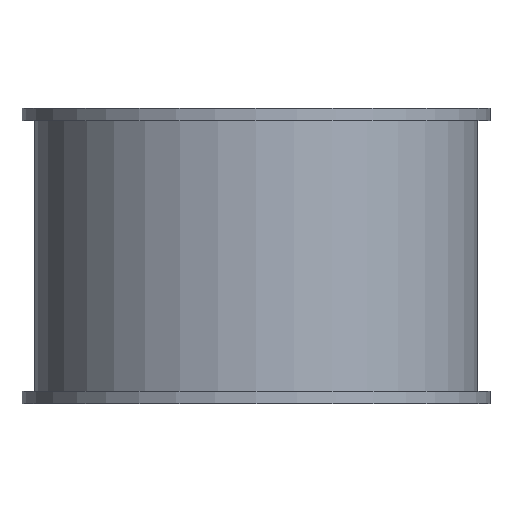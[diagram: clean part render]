
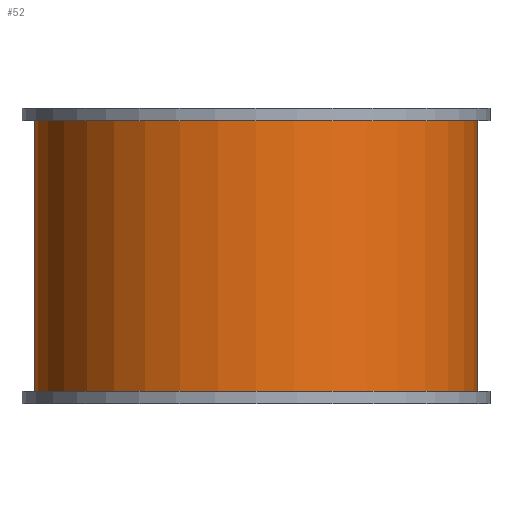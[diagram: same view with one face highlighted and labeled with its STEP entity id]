
A CAD part, front view. The second image highlights one B-rep face of the part: STEP entity #52.
In plain terms, the highlighted cylindrical face has radius 875.4 mm (diameter 1750.8 mm), a full revolution.
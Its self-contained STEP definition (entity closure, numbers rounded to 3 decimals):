
#52 = ADVANCED_FACE( '', ( #123, #124 ), #125, .T. );
#123 = FACE_OUTER_BOUND( '', #250, .T. );
#124 = FACE_OUTER_BOUND( '', #251, .T. );
#125 = CYLINDRICAL_SURFACE( '', #252, 875.4 );
#250 = EDGE_LOOP( '', ( #373 ) );
#251 = EDGE_LOOP( '', ( #374 ) );
#252 = AXIS2_PLACEMENT_3D( '', #375, #376, #377 );
#373 = ORIENTED_EDGE( '', *, *, #542, .F. );
#374 = ORIENTED_EDGE( '', *, *, #543, .F. );
#375 = CARTESIAN_POINT( '', ( 50., 0., 1171.37 ) );
#376 = DIRECTION( '', ( 0., 0., 1. ) );
#377 = DIRECTION( '', ( -1., 0., 0. ) );
#542 = EDGE_CURVE( '', #604, #604, #605, .F. );
#543 = EDGE_CURVE( '', #606, #606, #607, .F. );
#604 = VERTEX_POINT( '', #698 );
#605 = CIRCLE( '', #699, 875.4 );
#606 = VERTEX_POINT( '', #700 );
#607 = CIRCLE( '', #701, 875.4 );
#698 = CARTESIAN_POINT( '', ( -825.4, 0., 1120.57 ) );
#699 = AXIS2_PLACEMENT_3D( '', #792, #793, #794 );
#700 = CARTESIAN_POINT( '', ( 925.4, 0., 50.8 ) );
#701 = AXIS2_PLACEMENT_3D( '', #795, #796, #797 );
#792 = CARTESIAN_POINT( '', ( 50., 0., 1120.57 ) );
#793 = DIRECTION( '', ( 0., 0., -1. ) );
#794 = DIRECTION( '', ( -1., 0., 0. ) );
#795 = CARTESIAN_POINT( '', ( 50., 0., 50.8 ) );
#796 = DIRECTION( '', ( 0., 0., 1. ) );
#797 = DIRECTION( '', ( 1., 0., 0. ) );
